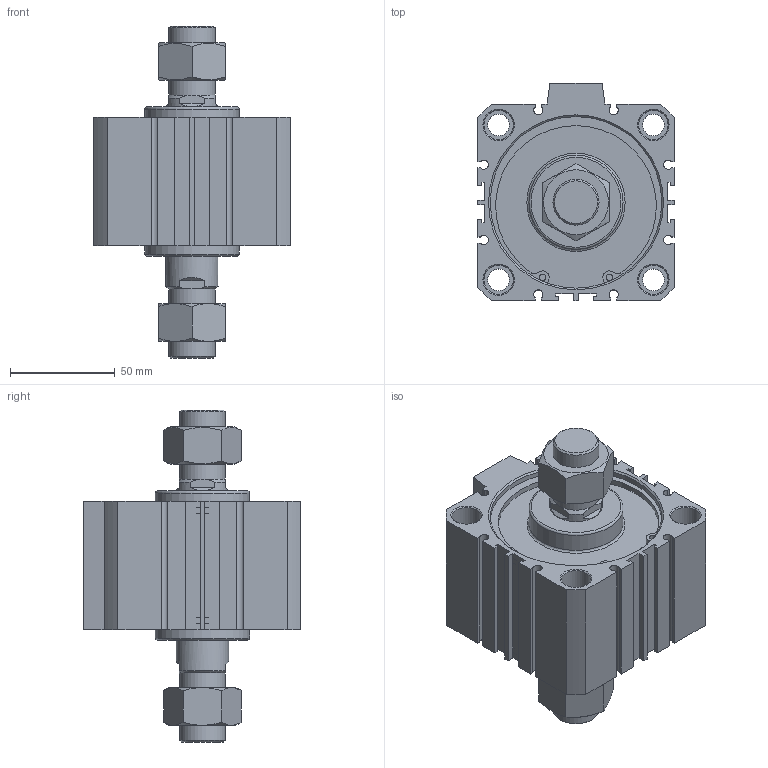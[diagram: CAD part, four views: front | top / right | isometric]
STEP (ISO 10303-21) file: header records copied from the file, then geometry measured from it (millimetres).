
FILE_DESCRIPTION((''),'2;1');
FILE_NAME('I:\3D電子目錄\氣缸\JDD\JDD-BS\JDD80-BS\JDD80x10-BS.stp','2007-02-28T08:38:40',('662F206'),(''),'Autodesk Inventor 10','Autodesk Inventor 10','');
FILE_SCHEMA(('AUTOMOTIVE_DESIGN { 1 0 10303 214 1 1 1 1 }'));
Length unit declared in the file: millimetre
Products named in the file (3): JDD80-BS; R 形環 82
Assembly tree (3 placements, depth 2):
  JDD80-BS
    JDD80-BS
    R 形環 82  x2
Bounding box: 94 x 104 x 158.7 mm (x, y, z)
Volume: 533898.9 mm3; surface area: 83264.8 mm2
Topology: 3 solids, 3 shells, 226 faces, 548 edges, 354 vertices
Faces by surface type: plane 130, cylinder 56, cone 36, bspline 2, torus 2
Full cylindrical faces by diameter (mm): 3.1 x4, 3.5 x2, 10.4 x4, 14 x8, 22 x4, 25 x2, 45 x2, 82 x4, 85.5 x2
Entity records: 6033 total; most frequent: CARTESIAN_POINT 1188, DIRECTION 994, ORIENTED_EDGE 916, EDGE_CURVE 458, AXIS2_PLACEMENT_3D 366, VERTEX_POINT 326, EDGE_LOOP 304, VECTOR 262
